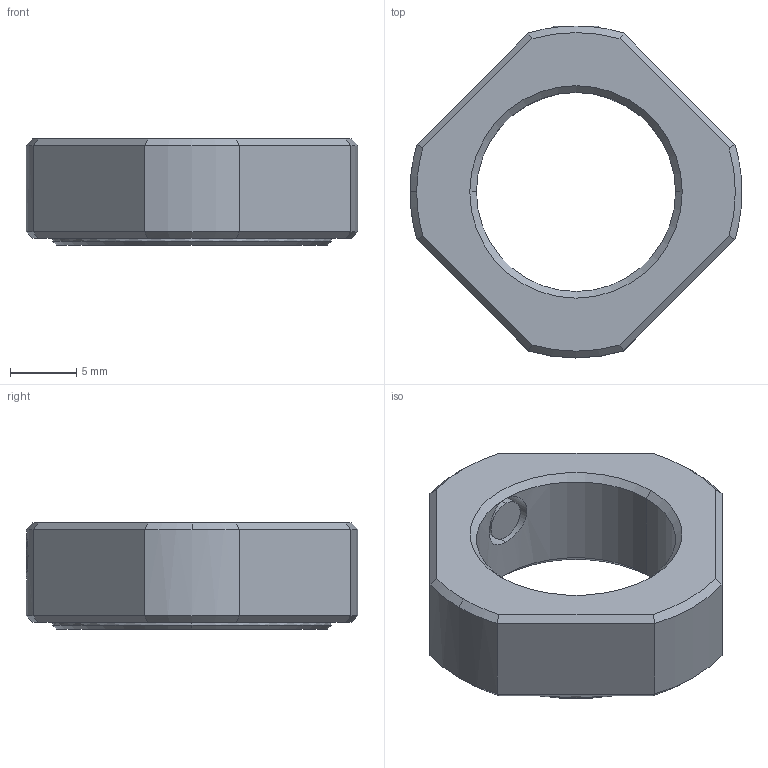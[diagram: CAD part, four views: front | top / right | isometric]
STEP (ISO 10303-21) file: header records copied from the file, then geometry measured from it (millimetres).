
FILE_DESCRIPTION (( 'STEP AP203' ), '1' );
FILE_NAME ('RN15.STEP', '2009-05-27T01:09:56', ( '冠犁泅' ), ( '俺惯何' ), 'SwSTEP 2.0', 'SolidWorks 2007', '' );
FILE_SCHEMA (( 'CONFIG_CONTROL_DESIGN' ));
Length unit declared in the file: millimetre
Products named in the file (4): RN15; RN15_NUT_晦獄 撲薑; SET PIECE_白3.1x1_晦獄 撲薑; Socket Set Screw Flat Point_AM_B18.3.6M - M4 x 0.7 x 4 Hex Socket Flat Pt. SS --N_B18.3.6M - M4 x 0.7 x 4 Hex Socket Flat Pt. SS --N
Assembly tree (3 placements, depth 2):
  RN15
    SET PIECE_白3.1x1_晦獄 撲薑
    Socket Set Screw Flat Point_AM_B18.3.6M - M4 x 0.7 x 4 Hex Socket Flat Pt. SS --N_B18.3.6M - M4 x 0.7 x 4 Hex Socket Flat Pt. SS --N
    RN15_NUT_晦獄 撲薑
Bounding box: 25 x 25 x 8 mm (x, y, z)
Volume: 2031.2 mm3; surface area: 1574.6 mm2
Topology: 3 solids, 3 shells, 64 faces, 142 edges, 83 vertices
Faces by surface type: plane 29, cone 20, cylinder 15
Entity records: 2283 total; most frequent: CARTESIAN_POINT 457, DIRECTION 315, ORIENTED_EDGE 284, EDGE_CURVE 142, AXIS2_PLACEMENT_3D 123, VERTEX_POINT 83, VECTOR 69, LINE 69
